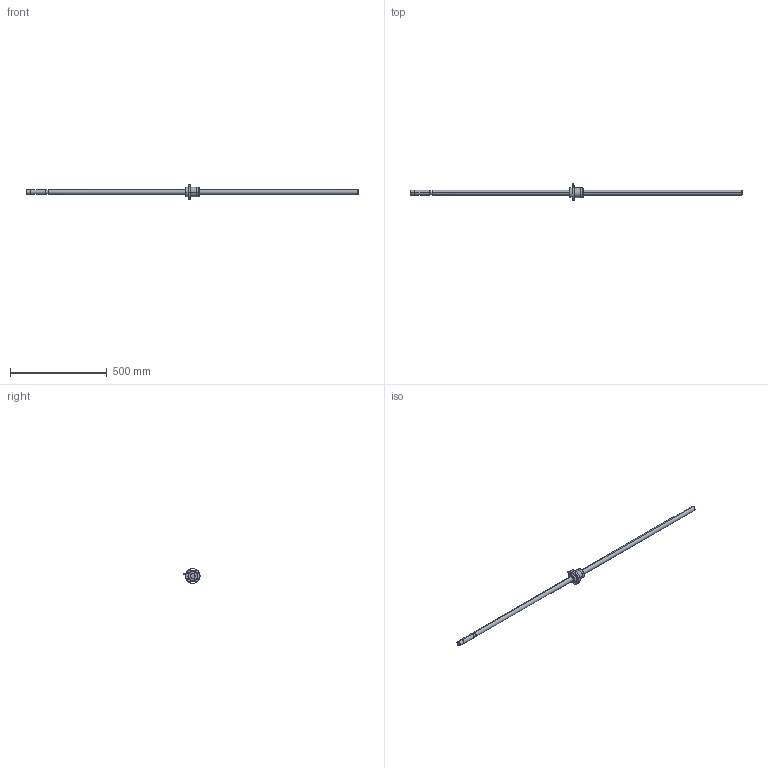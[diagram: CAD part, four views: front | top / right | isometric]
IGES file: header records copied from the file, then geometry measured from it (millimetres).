
Global section: file name: No Iges File Name specified; native system: AutoDesk Inventor R10; preprocessor: AutoDesk Inventor Iges Exporter R10; author: No Author specified; organization: No Organization specified; date: 20101224.134548; units: millimetre
Bounding box: 1715 x 83.6 x 75.97 mm (x, y, z)
Surface area: 161973 mm2 (no closed solid volume)
Topology: 0 solids, 0 shells, 80 faces, 488 edges, 484 vertices
Faces by surface type: bspline 80
